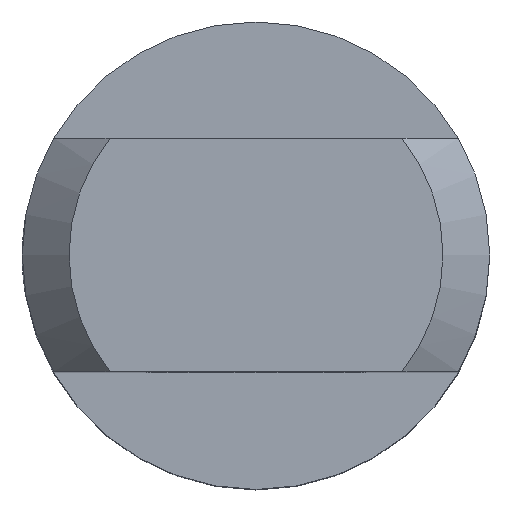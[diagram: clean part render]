
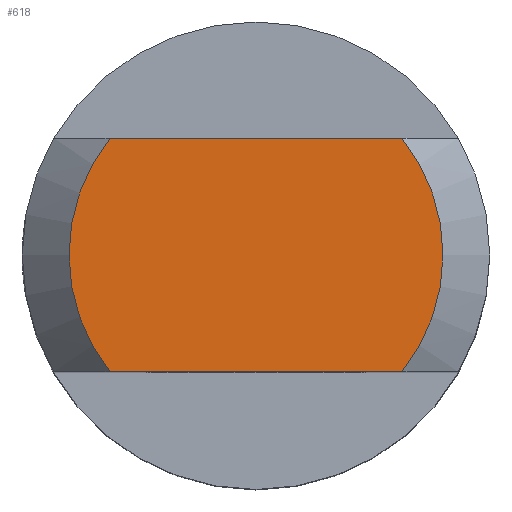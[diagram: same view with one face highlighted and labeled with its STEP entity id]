
A CAD part, top view. The second image highlights one B-rep face of the part: STEP entity #618.
In plain terms, the highlighted planar face has unit normal (0, 0, 1).
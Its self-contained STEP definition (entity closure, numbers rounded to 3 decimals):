
#3 = ORIENTED_EDGE ( 'NONE', *, *, #399, .T. ) ;
#17 = EDGE_CURVE ( 'NONE', #416, #664, #202, .T. ) ;
#18 = CARTESIAN_POINT ( 'NONE',  ( 12.5, -7.5, 196. ) ) ;
#56 = CARTESIAN_POINT ( 'NONE',  ( -12.5, 7.5, 196. ) ) ;
#60 = DIRECTION ( 'NONE',  ( 0., 0., -1. ) ) ;
#68 = VERTEX_POINT ( 'NONE', #184 ) ;
#103 = AXIS2_PLACEMENT_3D ( 'NONE', #548, #60, #811 ) ;
#111 = PLANE ( 'NONE',  #103 ) ;
#115 = DIRECTION ( 'NONE',  ( 0., 0., -1. ) ) ;
#129 = DIRECTION ( 'NONE',  ( -1., 0., 0. ) ) ;
#137 = EDGE_CURVE ( 'NONE', #68, #523, #213, .T. ) ;
#184 = CARTESIAN_POINT ( 'NONE',  ( 9.367, 7.5, 196. ) ) ;
#202 = CIRCLE ( 'NONE', #595, 12. ) ;
#213 = CIRCLE ( 'NONE', #442, 12. ) ;
#216 = ORIENTED_EDGE ( 'NONE', *, *, #137, .F. ) ;
#268 = EDGE_LOOP ( 'NONE', ( #216, #3, #398, #483 ) ) ;
#294 = VECTOR ( 'NONE', #129, 1000. ) ;
#315 = LINE ( 'NONE', #56, #294 ) ;
#357 = CARTESIAN_POINT ( 'NONE',  ( 0., 0., 196. ) ) ;
#369 = CARTESIAN_POINT ( 'NONE',  ( -9.367, 7.5, 196. ) ) ;
#398 = ORIENTED_EDGE ( 'NONE', *, *, #17, .F. ) ;
#399 = EDGE_CURVE ( 'NONE', #68, #664, #315, .T. ) ;
#416 = VERTEX_POINT ( 'NONE', #755 ) ;
#442 = AXIS2_PLACEMENT_3D ( 'NONE', #357, #757, #685 ) ;
#481 = CARTESIAN_POINT ( 'NONE',  ( 0., 0., 196. ) ) ;
#483 = ORIENTED_EDGE ( 'NONE', *, *, #543, .T. ) ;
#523 = VERTEX_POINT ( 'NONE', #588 ) ;
#543 = EDGE_CURVE ( 'NONE', #416, #523, #591, .T. ) ;
#548 = CARTESIAN_POINT ( 'NONE',  ( 0., 0., 196. ) ) ;
#588 = CARTESIAN_POINT ( 'NONE',  ( 9.367, -7.5, 196. ) ) ;
#591 = LINE ( 'NONE', #18, #594 ) ;
#594 = VECTOR ( 'NONE', #661, 1000. ) ;
#595 = AXIS2_PLACEMENT_3D ( 'NONE', #481, #115, #611 ) ;
#611 = DIRECTION ( 'NONE',  ( 0., 1., 0. ) ) ;
#618 = ADVANCED_FACE ( 'NONE', ( #759 ), #111, .F. ) ;
#661 = DIRECTION ( 'NONE',  ( 1., 0., 0. ) ) ;
#664 = VERTEX_POINT ( 'NONE', #369 ) ;
#685 = DIRECTION ( 'NONE',  ( 0., 1., 0. ) ) ;
#755 = CARTESIAN_POINT ( 'NONE',  ( -9.367, -7.5, 196. ) ) ;
#757 = DIRECTION ( 'NONE',  ( 0., 0., -1. ) ) ;
#759 = FACE_OUTER_BOUND ( 'NONE', #268, .T. ) ;
#811 = DIRECTION ( 'NONE',  ( -1., 0., 0. ) ) ;
